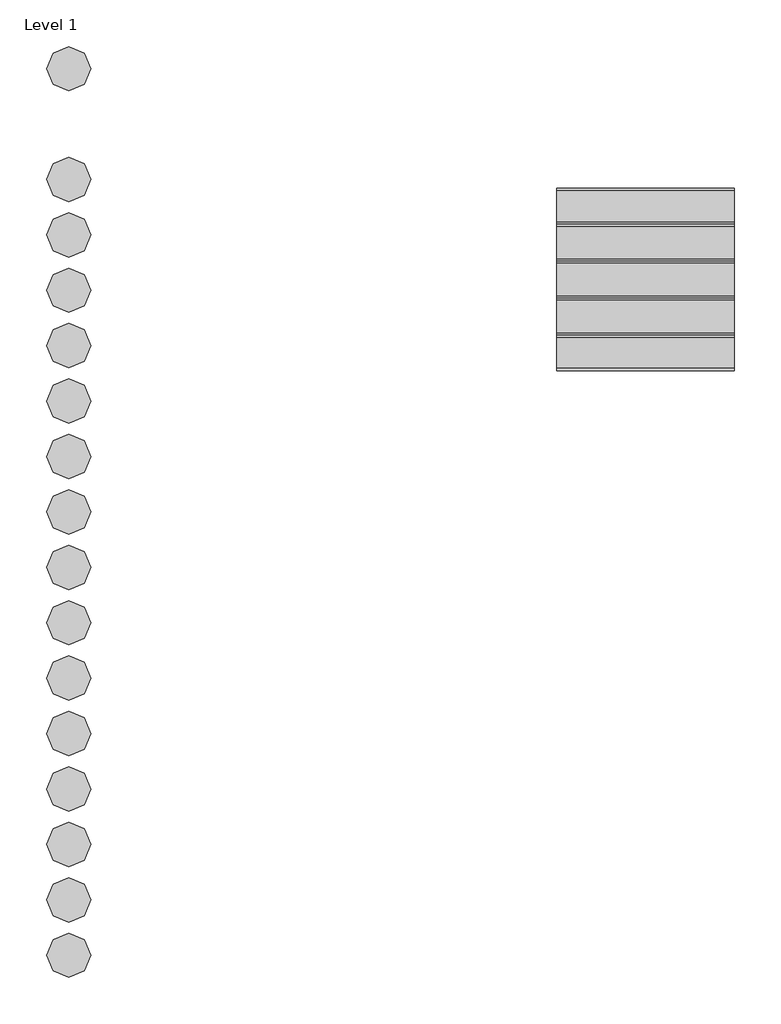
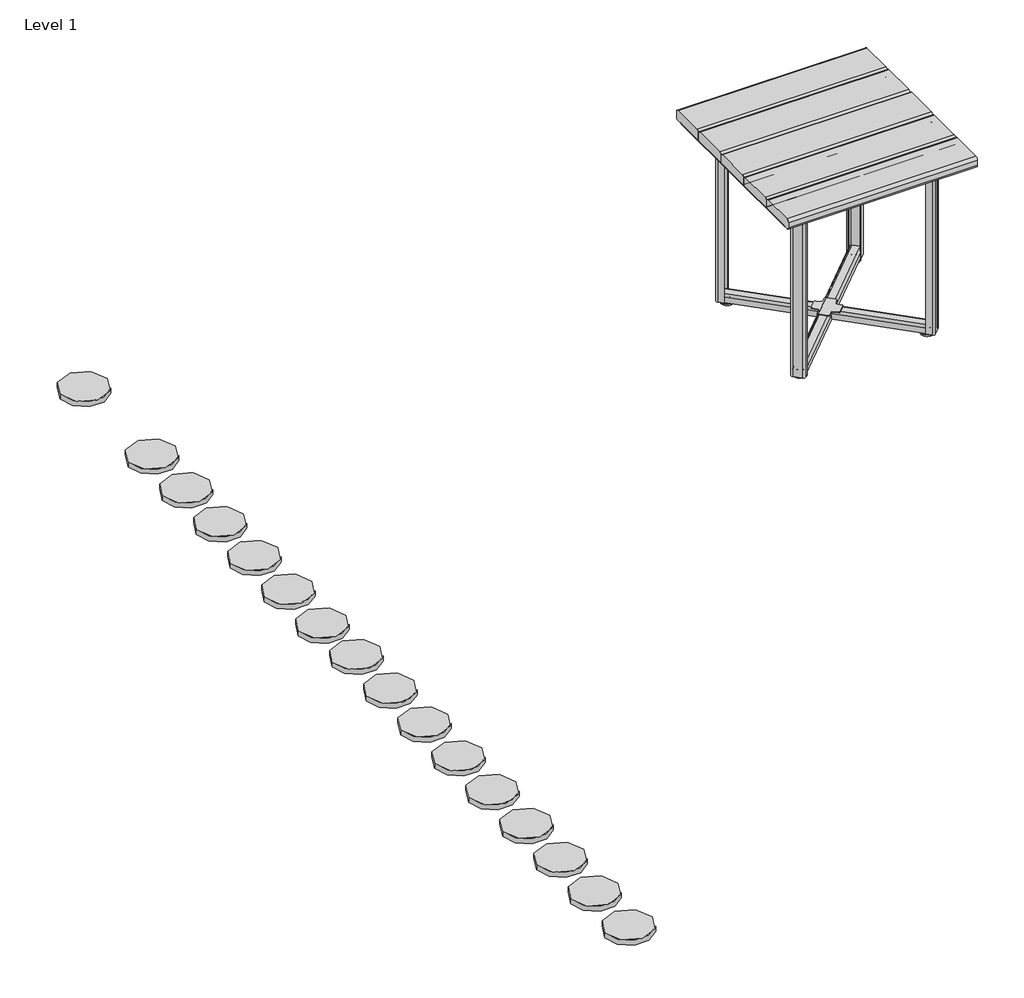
# One storey, incomplete: 16 proxies, 1 furniture element.
"""IFC4 building model written with IfcOpenShell, lengths in millimetres."""

from ifc_helpers import new_model, si_unit, origin, place, context, project, spatial, transform, mapped, element, save
from components import materialmodel_materialmodel_ff088fdc, furniture_a0f1faf4

model = new_model("IFC4")

# Units and contexts
model_context = context("Model", 3, world=origin())
ifc_project = project(units=[si_unit("LENGTHUNIT", "METRE", prefix="MILLI")], contexts=[model_context])

# Site, building, storey
site = spatial("IfcSite", under=ifc_project)
building = spatial("IfcBuilding", under=site)
storey = spatial("IfcBuildingStorey", under=building, Name="Level 1", Elevation=0.0)

# Proxies
placement = place(None, origin())
materialmodel_materialmodel_shape = materialmodel_materialmodel_ff088fdc(model_context)
element("IfcBuildingElementProxy", 1, Name="MaterialModel : MaterialModel", ObjectType="MaterialModel : MaterialModel", at=placement, inside=storey, context=model_context, shape_type="MappedRepresentation", body=[
    mapped(materialmodel_materialmodel_shape, transform((-10113.5516042, 2803.1710583, 0.0), x_axis=(1.0, 0.0, 0.0), y_axis=(0.0, 1.0, 0.0), z_axis=(0.0, 0.0, 1.0))),
])
element("IfcBuildingElementProxy", 2, Name="MaterialModel : MaterialModel", ObjectType="MaterialModel : MaterialModel", at=placement, inside=storey, context=model_context, shape_type="MappedRepresentation", body=[
    mapped(materialmodel_materialmodel_shape, transform((-10113.5516042, 2578.362683, 0.0), x_axis=(1.0, 0.0, 0.0), y_axis=(0.0, 1.0, 0.0), z_axis=(0.0, 0.0, 1.0))),
])
element("IfcBuildingElementProxy", 3, Name="MaterialModel : MaterialModel", ObjectType="MaterialModel : MaterialModel", at=placement, inside=storey, context=model_context, shape_type="MappedRepresentation", body=[
    mapped(materialmodel_materialmodel_shape, transform((-10113.5516042, 2353.5543077, 0.0), x_axis=(1.0, 0.0, 0.0), y_axis=(0.0, 1.0, 0.0), z_axis=(0.0, 0.0, 1.0))),
])
element("IfcBuildingElementProxy", 4, Name="MaterialModel : MaterialModel", ObjectType="MaterialModel : MaterialModel", at=placement, inside=storey, context=model_context, shape_type="MappedRepresentation", body=[
    mapped(materialmodel_materialmodel_shape, transform((-10113.5516042, 2128.7459325, 0.0), x_axis=(1.0, 0.0, 0.0), y_axis=(0.0, 1.0, 0.0), z_axis=(0.0, 0.0, 1.0))),
])
element("IfcBuildingElementProxy", 5, Name="MaterialModel : MaterialModel", ObjectType="MaterialModel : MaterialModel", at=placement, inside=storey, context=model_context, shape_type="MappedRepresentation", body=[
    mapped(materialmodel_materialmodel_shape, transform((-10113.5516042, 1903.9375572, 0.0), x_axis=(1.0, 0.0, 0.0), y_axis=(0.0, 1.0, 0.0), z_axis=(0.0, 0.0, 1.0))),
])
element("IfcBuildingElementProxy", 6, Name="MaterialModel : MaterialModel", ObjectType="MaterialModel : MaterialModel", at=placement, inside=storey, context=model_context, shape_type="MappedRepresentation", body=[
    mapped(materialmodel_materialmodel_shape, transform((-10113.5516042, 1679.1291819, 0.0), x_axis=(1.0, 0.0, 0.0), y_axis=(0.0, 1.0, 0.0), z_axis=(0.0, 0.0, 1.0))),
])
element("IfcBuildingElementProxy", 7, Name="MaterialModel : MaterialModel", ObjectType="MaterialModel : MaterialModel", at=placement, inside=storey, context=model_context, shape_type="MappedRepresentation", body=[
    mapped(materialmodel_materialmodel_shape, transform((-10113.5516042, 1454.3208066, 10.0), x_axis=(1.0, 0.0, 0.0), y_axis=(0.0, 1.0, 0.0), z_axis=(0.0, 0.0, 1.0))),
])
element("IfcBuildingElementProxy", 8, Name="MaterialModel : MaterialModel", ObjectType="MaterialModel : MaterialModel", at=placement, inside=storey, context=model_context, shape_type="MappedRepresentation", body=[
    mapped(materialmodel_materialmodel_shape, transform((-10113.5516042, 1229.5124313, 10.0), x_axis=(1.0, 0.0, 0.0), y_axis=(0.0, 1.0, 0.0), z_axis=(0.0, 0.0, 1.0))),
])
element("IfcBuildingElementProxy", 9, Name="MaterialModel : MaterialModel", ObjectType="MaterialModel : MaterialModel", at=placement, inside=storey, context=model_context, shape_type="MappedRepresentation", body=[
    mapped(materialmodel_materialmodel_shape, transform((-10113.5516042, 1004.7040561, 10.0), x_axis=(1.0, 0.0, 0.0), y_axis=(0.0, 1.0, 0.0), z_axis=(0.0, 0.0, 1.0))),
])
element("IfcBuildingElementProxy", 10, Name="MaterialModel : MaterialModel", ObjectType="MaterialModel : MaterialModel", at=placement, inside=storey, context=model_context, shape_type="MappedRepresentation", body=[
    mapped(materialmodel_materialmodel_shape, transform((-10113.5516042, 779.8956808, 10.0), x_axis=(1.0, 0.0, 0.0), y_axis=(0.0, 1.0, 0.0), z_axis=(0.0, 0.0, 1.0))),
])
element("IfcBuildingElementProxy", 11, Name="MaterialModel : MaterialModel", ObjectType="MaterialModel : MaterialModel", at=placement, inside=storey, context=model_context, shape_type="MappedRepresentation", body=[
    mapped(materialmodel_materialmodel_shape, transform((-10113.5516042, 555.0873055, 10.0), x_axis=(1.0, 0.0, 0.0), y_axis=(0.0, 1.0, 0.0), z_axis=(0.0, 0.0, 1.0))),
])
element("IfcBuildingElementProxy", 12, Name="MaterialModel : MaterialModel", ObjectType="MaterialModel : MaterialModel", at=placement, inside=storey, context=model_context, shape_type="MappedRepresentation", body=[
    mapped(materialmodel_materialmodel_shape, transform((-10113.5516042, 330.2789302, 10.0), x_axis=(1.0, 0.0, 0.0), y_axis=(0.0, 1.0, 0.0), z_axis=(0.0, 0.0, 1.0))),
])
element("IfcBuildingElementProxy", 13, Name="MaterialModel : MaterialModel", ObjectType="MaterialModel : MaterialModel", at=placement, inside=storey, context=model_context, shape_type="MappedRepresentation", body=[
    mapped(materialmodel_materialmodel_shape, transform((-10113.5516042, 105.470555, 10.0), x_axis=(1.0, 0.0, 0.0), y_axis=(0.0, 1.0, 0.0), z_axis=(0.0, 0.0, 1.0))),
])
element("IfcBuildingElementProxy", 14, Name="MaterialModel : MaterialModel", ObjectType="MaterialModel : MaterialModel", at=placement, inside=storey, context=model_context, shape_type="MappedRepresentation", body=[
    mapped(materialmodel_materialmodel_shape, transform((-10113.5516042, -119.3378203, 10.0), x_axis=(1.0, 0.0, 0.0), y_axis=(0.0, 1.0, 0.0), z_axis=(0.0, 0.0, 1.0))),
])
element("IfcBuildingElementProxy", 15, Name="MaterialModel : MaterialModel", ObjectType="MaterialModel : MaterialModel", at=placement, inside=storey, context=model_context, shape_type="MappedRepresentation", body=[
    mapped(materialmodel_materialmodel_shape, transform((-10113.5516042, -344.1461956, 10.0), x_axis=(1.0, 0.0, 0.0), y_axis=(0.0, 1.0, 0.0), z_axis=(0.0, 0.0, 1.0))),
])
element("IfcBuildingElementProxy", 16, Name="MaterialModel : MaterialModel", ObjectType="MaterialModel : MaterialModel", at=placement, inside=storey, context=model_context, shape_type="MappedRepresentation", body=[
    mapped(materialmodel_materialmodel_shape, transform((-10113.5516042, 3252.214146, 0.0), x_axis=(1.0, 0.0, 0.0), y_axis=(0.0, 1.0, 0.0), z_axis=(0.0, 0.0, 1.0))),
])

# Furniture
furniture_shape = furniture_a0f1faf4(model_context)
element("IfcFurniture", 17, ObjectType="Roros Produkter - Trend - Table - Square - 74x74 - 32995 : Roros Produkter - Trend - Table - Square - 74x74 - 32995", at=placement, inside=storey, context=model_context, shape_type="MappedRepresentation", body=[
    mapped(furniture_shape, transform((-7773.9082205, 2397.003752, 0.0), x_axis=(1.0, 0.0, 0.0), y_axis=(0.0, 1.0, 0.0), z_axis=(0.0, 0.0, 1.0))),
])

save(model, "model.ifc")
